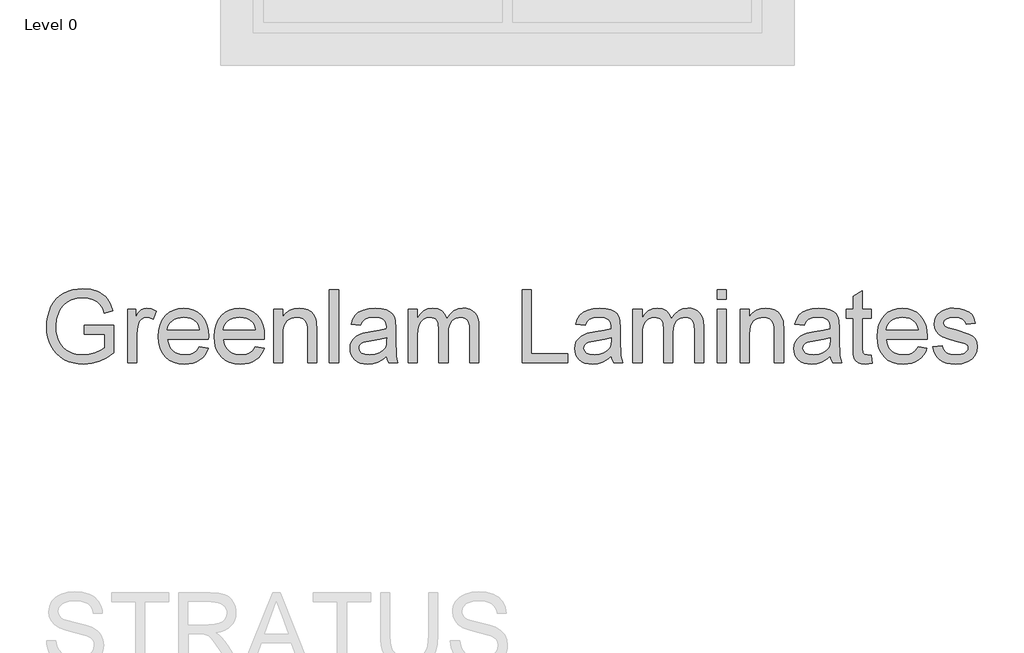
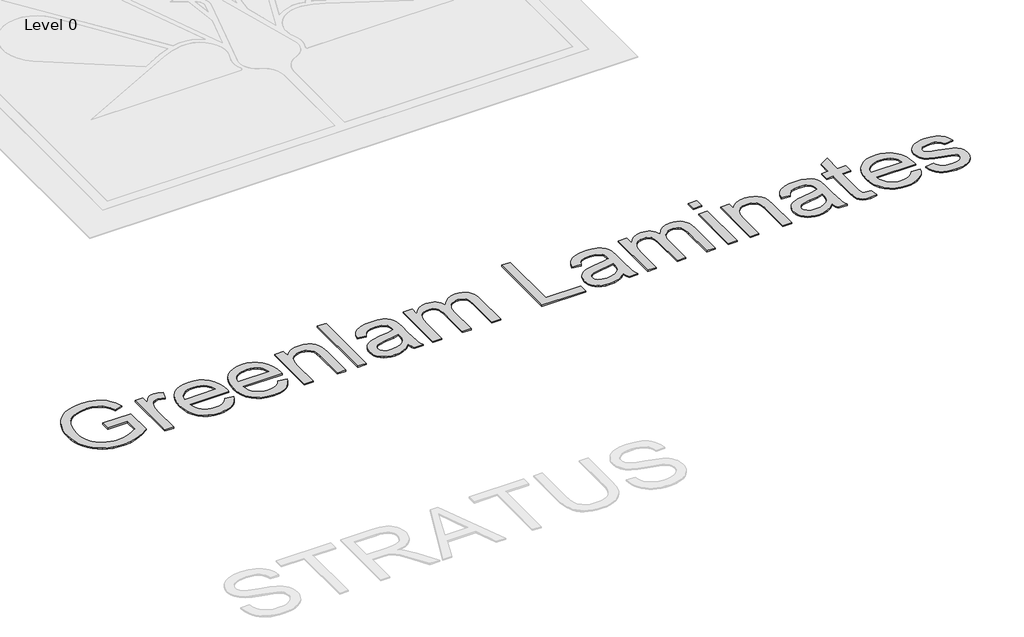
# One storey, part 12 of 12: 1 proxy.
"""IFC4 building model written with IfcOpenShell, lengths in millimetres."""

from ifc_helpers import new_model, si_unit, origin, origin_with_axes, place, context, project, spatial, polyline, outline, extrude, element, save

model = new_model("IFC4")

# Units and contexts
model_context = context("Model", 3, world=origin())
ifc_project = project(units=[si_unit("LENGTHUNIT", "METRE", prefix="MILLI")], contexts=[model_context])

# Site, building, storey
site = spatial("IfcSite", under=ifc_project)
building = spatial("IfcBuilding", under=site)
storey = spatial("IfcBuildingStorey", under=building, Name="Level 0", Elevation=0.0)

# Proxy
placement = place(None, origin())
element("IfcBuildingElementProxy", 1, Name="600mm Arial", ObjectType="600mm Arial", at=placement, inside=storey, context=model_context, shape_type="SweptSolid", body=[
    extrude(outline(polyline([(-10594.9298129, 2995.5724296), (-10594.9298129, 3070.9146622), (-10350.067557, 3070.9146622), (-10350.067557, 2845.6237284), (-10409.5724697, 2804.2370039), (-10470.9535806, 2774.5489269), (-10534.0637368, 2756.6698619), (-10598.7557857, 2750.7101736), (-10642.0325039, 2753.0784139), (-10683.2766741, 2760.183135), (-10722.4882962, 2772.0243367), (-10759.6673704, 2788.6020191), (-10793.6136815, 2809.6678618), (-10823.1270146, 2834.9735446), (-10848.2073696, 2864.5190673), (-10868.8547466, 2898.3044301), (-10884.9817735, 2935.2489794), (-10896.5010785, 2974.2720621), (-10903.4126615, 3015.373678), (-10905.7165225, 3058.5538272), (-10903.4218585, 3101.7385749), (-10896.5378667, 3143.4425975), (-10885.064547, 3183.6658952), (-10869.0018994, 3222.4084678), (-10848.6350324, 3257.9688612), (-10824.2490546, 3288.645621), (-10795.8439661, 3314.4387474), (-10763.4197667, 3335.3482403), (-10727.6800309, 3351.507457), (-10689.3283329, 3363.0497546), (-10648.3646727, 3369.9751331), (-10604.7890504, 3372.2835926), (-10542.7273578, 3366.9309096), (-10486.9196592, 3350.8728605), (-10462.0002525, 3339.1190308), (-10439.9227343, 3325.2682737), (-10420.6871045, 3309.3205892), (-10404.293363, 3291.2759773), (-10377.9346181, 3247.2588966), (-10358.749572, 3191.5799566), (-10428.2056927, 3172.0086345), (-10443.7119188, 3211.7214959), (-10462.5658711, 3241.6854844), (-10487.5082704, 3264.2734389), (-10521.2798375, 3281.8581982), (-10561.5445219, 3293.1705696), (-10605.9662728, 3296.94136), (-10657.9663928, 3292.876264), (-10702.4249319, 3280.6809758), (-10739.1763433, 3261.8822059), (-10768.0550799, 3238.0066644), (-10790.2199701, 3210.2867561), (-10806.8298422, 3179.9548856), (-10824.4881779, 3123.0803291), (-10830.3742899, 3061.6440359), (-10828.6038578, 3024.0235034), (-10823.2925615, 2989.5943472), (-10814.4404009, 2958.3565672), (-10802.0473762, 2930.3101636), (-10786.2744357, 2905.5609024), (-10767.2825277, 2884.2145496), (-10745.0716522, 2866.2711053), (-10719.6418093, 2851.7305695), (-10692.1840169, 2840.496373), (-10663.8892929, 2832.471947), (-10634.7576374, 2827.6572914), (-10604.7890504, 2826.0524062), (-10552.6049894, 2830.8900544), (-10501.7085154, 2845.4029992), (-10457.5074936, 2865.3973856), (-10425.4097896, 2886.679359), (-10425.4097896, 2995.5724296), (-10594.9298129, 2995.5724296)])), origin_with_axes(), (0.0, 0.0, 1.0), 10.0),
    extrude(outline(polyline([(-10237.054208, 2760.1279527), (-10237.054208, 3202.7635693), (-10171.1297545, 3202.7635693), (-10171.1297545, 3137.2805741), (-10146.7759664, 3175.245996), (-10124.3351647, 3197.6132213), (-10101.8207866, 3208.5393166), (-10077.2462693, 3212.1813483), (-10039.7223058, 3206.3688128), (-10001.6097311, 3188.9312062), (-10026.7728596, 3121.3880719), (-10053.2603632, 3132.9763548), (-10079.7478669, 3136.8391157), (-10102.2438509, 3133.1235076), (-10122.3486019, 3121.9766831), (-10138.590592, 3104.244771), (-10149.4982932, 3080.7738997), (-10158.6585549, 3038.6881994), (-10161.7119754, 2992.7765264), (-10161.7119754, 2760.1279527), (-10237.054208, 2760.1279527)])), origin_with_axes(), (0.0, 0.0, 1.0), 10.0),
    extrude(outline(polyline([(-9644.617043, 2891.9768597), (-9570.7463384, 2882.5590807), (-9582.0725053, 2852.9721712), (-9597.3626007, 2826.8985348), (-9616.6166246, 2804.3381714), (-9639.8345771, 2785.2910811), (-9666.7773347, 2770.1619341), (-9697.2057742, 2759.3554005), (-9731.1198956, 2752.8714803), (-9768.519699, 2750.7101736), (-9815.2683035, 2754.4395773), (-9856.9217424, 2765.6277885), (-9893.4800157, 2784.2748071), (-9924.9431233, 2810.3806332), (-9950.2442075, 2843.2186998), (-9968.3164106, 2882.06244), (-9979.1597324, 2926.9118537), (-9982.774173, 2977.766941), (-9979.1229442, 3030.3464752), (-9968.1692578, 3076.6904095), (-9949.9131138, 3116.798744), (-9924.3545121, 3150.6714788), (-9892.9741779, 3177.5820467), (-9857.2528362, 3196.8038809), (-9817.1904869, 3208.3369815), (-9772.7871301, 3212.1813483), (-9729.8139146, 3208.3461785), (-9690.9517803, 3196.8406691), (-9656.2007273, 3177.6648201), (-9625.5607557, 3150.8186315), (-9600.5493785, 3117.0194732), (-9582.6841091, 3076.9847151), (-9571.9649475, 3030.7143572), (-9568.3918936, 2978.2083994), (-9568.833352, 2957.9013133), (-9907.4319404, 2957.9013133), (-9903.0679402, 2927.8361572), (-9894.3905236, 2901.5050034), (-9881.3996907, 2878.9078519), (-9864.0954413, 2860.0447026), (-9843.4342688, 2845.1730729), (-9820.3726662, 2834.5504803), (-9794.9106336, 2828.1769247), (-9767.048171, 2826.0524062), (-9726.9490335, 2829.9887436), (-9693.1774664, 2841.7977556), (-9665.7334695, 2862.2152063), (-9644.617043, 2891.9768597)]), holes=[polyline([(-9907.4319404, 3033.2435459), (-9643.7341262, 3033.2435459), (-9653.9244575, 3073.0483778), (-9662.689246, 3088.7017567), (-9673.9004498, 3101.5224442), (-9694.4466593, 3116.973488), (-9717.82556, 3128.0099478), (-9744.0371522, 3134.6318238), (-9773.0814357, 3136.8391157), (-9799.5735379, 3135.0778807), (-9823.8675452, 3129.7941755), (-9845.9634575, 3120.9880003), (-9865.8612749, 3108.6593549), (-9882.558519, 3093.3784565), (-9895.0527112, 3075.7155222), (-9903.3438517, 3055.670552), (-9907.4319404, 3033.2435459)])]), origin_with_axes(), (0.0, 0.0, 1.0), 10.0),
    extrude(outline(polyline([(-9183.1458683, 2891.9768597), (-9109.2751636, 2882.5590807), (-9120.6013305, 2852.9721712), (-9135.891426, 2826.8985348), (-9155.1454499, 2804.3381714), (-9178.3634023, 2785.2910811), (-9205.3061599, 2770.1619341), (-9235.7345995, 2759.3554005), (-9269.6487209, 2752.8714803), (-9307.0485242, 2750.7101736), (-9353.7971288, 2754.4395773), (-9395.4505677, 2765.6277885), (-9432.0088409, 2784.2748071), (-9463.4719486, 2810.3806332), (-9488.7730328, 2843.2186998), (-9506.8452358, 2882.06244), (-9517.6885576, 2926.9118537), (-9521.3029982, 2977.766941), (-9517.6517694, 3030.3464752), (-9506.698083, 3076.6904095), (-9488.441939, 3116.798744), (-9462.8833374, 3150.6714788), (-9431.5030032, 3177.5820467), (-9395.7816615, 3196.8038809), (-9355.7193122, 3208.3369815), (-9311.3159554, 3212.1813483), (-9268.3427398, 3208.3461785), (-9229.4806055, 3196.8406691), (-9194.7295526, 3177.6648201), (-9164.0895809, 3150.8186315), (-9139.0782038, 3117.0194732), (-9121.2129344, 3076.9847151), (-9110.4937727, 3030.7143572), (-9106.9207189, 2978.2083994), (-9107.3621772, 2957.9013133), (-9445.9607656, 2957.9013133), (-9441.5967654, 2927.8361572), (-9432.9193489, 2901.5050034), (-9419.9285159, 2878.9078519), (-9402.6242666, 2860.0447026), (-9381.963094, 2845.1730729), (-9358.9014915, 2834.5504803), (-9333.4394589, 2828.1769247), (-9305.5769962, 2826.0524062), (-9265.4778588, 2829.9887436), (-9231.7062916, 2841.7977556), (-9204.2622948, 2862.2152063), (-9183.1458683, 2891.9768597)]), holes=[polyline([(-9445.9607656, 3033.2435459), (-9182.2629515, 3033.2435459), (-9192.4532827, 3073.0483778), (-9201.2180713, 3088.7017567), (-9212.4292751, 3101.5224442), (-9232.9754845, 3116.973488), (-9256.3543853, 3128.0099478), (-9282.5659775, 3134.6318238), (-9311.610261, 3136.8391157), (-9338.1023631, 3135.0778807), (-9362.3963704, 3129.7941755), (-9384.4922827, 3120.9880003), (-9404.3901002, 3108.6593549), (-9421.0873442, 3093.3784565), (-9433.5815365, 3075.7155222), (-9441.8726769, 3055.670552), (-9445.9607656, 3033.2435459)])]), origin_with_axes(), (0.0, 0.0, 1.0), 10.0),
    extrude(outline(polyline([(-9031.5784862, 2760.1279527), (-9031.5784862, 3202.7635693), (-8956.2362536, 3202.7635693), (-8956.2362536, 3140.9593941), (-8930.0614497, 3172.1189991), (-8898.6259332, 3194.3758598), (-8861.9297042, 3207.7299762), (-8819.9727626, 3212.1813483), (-8782.8350752, 3208.5944989), (-8748.8243847, 3197.8339505), (-8720.4606829, 3181.2424725), (-8700.2639614, 3160.1628342), (-8686.5603571, 3134.6502179), (-8677.6760069, 3104.7598058), (-8673.7028813, 3031.9191707), (-8673.7028813, 2760.1279527), (-8749.0451139, 2760.1279527), (-8749.0451139, 3021.7656276), (-8751.2156177, 3060.7243309), (-8757.727129, 3088.4258452), (-8769.7384762, 3108.2730788), (-8788.4084874, 3123.6689403), (-8812.3392112, 3133.5465719), (-8840.132696, 3136.8391157), (-8863.0103575, 3134.9905087), (-8884.2601413, 3129.4446876), (-8903.8820472, 3120.2016525), (-8921.8760753, 3107.2614033), (-8936.9086533, 3089.1524121), (-8947.646209, 3064.4031509), (-8954.0887425, 3033.0136196), (-8956.2362536, 2994.9838184), (-8956.2362536, 2760.1279527), (-9031.5784862, 2760.1279527)])), origin_with_axes(), (0.0, 0.0, 1.0), 10.0),
    extrude(outline(polyline([(-8570.1073115, 2760.1279527), (-8570.1073115, 3362.8658136), (-8494.7650789, 3362.8658136), (-8494.7650789, 2760.1279527), (-8570.1073115, 2760.1279527)])), origin_with_axes(), (0.0, 0.0, 1.0), 10.0),
    extrude(outline(polyline([(-8099.2183577, 2816.6346271), (-8135.2156109, 2785.7693277), (-8172.2797219, 2765.5726062), (-8211.2568193, 2754.4257817), (-8252.9930316, 2750.7101736), (-8286.5392711, 2752.9450567), (-8315.9560351, 2759.6497061), (-8341.2433238, 2770.8241217), (-8362.401137, 2786.4683035), (-8379.1075781, 2805.5889702), (-8391.0407503, 2827.1928404), (-8398.2006537, 2851.279914), (-8400.5872881, 2877.8501911), (-8396.9820446, 2909.0833725), (-8386.1663139, 2937.4470743), (-8369.4828654, 2961.727286), (-8348.2744684, 2980.709997), (-8323.3504632, 2995.0573948), (-8295.5201903, 3005.4316671), (-8230.3315007, 3016.7624325), (-8153.297011, 3028.6818092), (-8099.6598161, 3042.661325), (-8099.2183577, 3059.4367439), (-8104.4054938, 3093.0611583), (-8110.889414, 3105.5139638), (-8119.9669022, 3115.0605016), (-8135.6570693, 3124.5886453), (-8154.7685389, 3131.3944622), (-8203.2553859, 3136.8391157), (-8248.1369893, 3133.2154781), (-8279.4805353, 3122.3445651), (-8300.8544792, 3102.2398141), (-8315.8272764, 3070.9146622), (-8391.169509, 3080.3324413), (-8378.0913041, 3121.5352247), (-8358.5751643, 3153.9088403), (-8330.8000736, 3178.6672986), (-8292.9450163, 3197.0246101), (-8246.6470672, 3208.3921638), (-8193.5433012, 3212.1813483), (-8142.610039, 3208.8336222), (-8102.23499, 3198.7904437), (-8071.7927549, 3183.6888878), (-8050.6579343, 3165.1660294), (-8036.6416303, 3142.2653752), (-8027.554945, 3114.030432), (-8023.8761251, 3048.1059785), (-8023.8761251, 2954.3696461), (-8020.0501523, 2823.4772322), (-8014.3847696, 2791.1220108), (-8005.0405669, 2760.1279527), (-8080.3827995, 2760.1279527), (-8092.449329, 2786.3211507), (-8099.2183577, 2816.6346271)]), holes=[polyline([(-8099.2183577, 2967.3190924), (-8149.8389202, 2954.7743163), (-8220.7665689, 2944.2161031), (-8285.5873764, 2932.0024208), (-8302.4547659, 2923.6514995), (-8314.9443596, 2912.1367931), (-8322.6698815, 2898.3412183), (-8325.2450555, 2883.1476919), (-8319.6348551, 2860.7436784), (-8302.8042538, 2842.3863668), (-8275.1211337, 2830.1358964), (-8236.9533767, 2826.0524062), (-8196.4863572, 2830.5589606), (-8160.7282273, 2844.078624), (-8131.739126, 2863.999434), (-8111.5791927, 2887.7094286), (-8102.6396602, 2912.1367931), (-8099.6598161, 2945.9819366), (-8099.2183577, 2967.3190924)])]), origin_with_axes(), (0.0, 0.0, 1.0), 10.0),
    extrude(outline(polyline([(-7920.2805552, 2760.1279527), (-7920.2805552, 3202.7635693), (-7844.9383226, 3202.7635693), (-7844.9383226, 3129.9229342), (-7822.2767917, 3163.3818017), (-7793.1405377, 3189.5933938), (-7758.5228419, 3206.5343597), (-7719.4169858, 3212.1813483), (-7677.5152266, 3206.4239951), (-7659.6821469, 3199.2273036), (-7643.9276004, 3189.1519354), (-7618.8380484, 3161.5056035), (-7602.4305114, 3124.6254335), (-7574.9681204, 3162.9311462), (-7543.6429685, 3190.2923696), (-7508.4550557, 3206.7091037), (-7469.4043819, 3212.1813483), (-7439.2426568, 3209.9050785), (-7412.7689488, 3203.076269), (-7389.9832577, 3191.6949197), (-7370.8855836, 3175.7610308), (-7355.7886262, 3155.0906612), (-7345.0050853, 3129.4998699), (-7338.5349607, 3098.988657), (-7336.3782525, 3063.5570223), (-7336.3782525, 2760.1279527), (-7411.7204851, 2760.1279527), (-7411.7204851, 3031.1834067), (-7413.4679246, 3068.7625525), (-7418.710243, 3094.0912279), (-7428.5326923, 3111.436864), (-7444.0205243, 3125.0668919), (-7463.9413343, 3133.8960598), (-7487.0627177, 3136.8391157), (-7508.413669, 3134.9537205), (-7527.8792251, 3129.2975348), (-7545.4593859, 3119.8705587), (-7561.1541515, 3106.6727921), (-7574.062211, 3089.317959), (-7583.2822535, 3067.4197832), (-7588.814279, 3040.9782648), (-7590.6582875, 3009.9934038), (-7590.6582875, 2760.1279527), (-7666.0005201, 2760.1279527), (-7666.0005201, 3039.5711162), (-7670.3599218, 3082.1718512), (-7675.8091738, 3098.8920879), (-7683.4381267, 3112.5589041), (-7693.5502831, 3123.1814967), (-7706.4491455, 3130.7690628), (-7722.1347141, 3135.3216025), (-7740.6069888, 3136.8391157), (-7769.6328782, 3132.7924138), (-7796.3778992, 3120.6523079), (-7818.4508189, 3100.7131038), (-7833.4604044, 3073.269107), (-7842.068843, 3035.1933205), (-7844.9383226, 2983.3587473), (-7844.9383226, 2760.1279527), (-7920.2805552, 2760.1279527)])), origin_with_axes(), (0.0, 0.0, 1.0), 10.0),
    extrude(outline(polyline([(-6978.5026476, 2760.1279527), (-6978.5026476, 3362.8658136), (-6903.1604149, 3362.8658136), (-6903.1604149, 2835.4701853), (-6601.7914845, 2835.4701853), (-6601.7914845, 2760.1279527), (-6978.5026476, 2760.1279527)])), origin_with_axes(), (0.0, 0.0, 1.0), 10.0),
    extrude(outline(polyline([(-6243.9158796, 2816.6346271), (-6279.9131328, 2785.7693277), (-6316.9772438, 2765.5726062), (-6355.9543412, 2754.4257817), (-6397.6905536, 2750.7101736), (-6431.236793, 2752.9450567), (-6460.653557, 2759.6497061), (-6485.9408457, 2770.8241217), (-6507.0986589, 2786.4683035), (-6523.8051, 2805.5889702), (-6535.7382723, 2827.1928404), (-6542.8981756, 2851.279914), (-6545.28481, 2877.8501911), (-6541.6795665, 2909.0833725), (-6530.8638358, 2937.4470743), (-6514.1803873, 2961.727286), (-6492.9719903, 2980.709997), (-6468.0479852, 2995.0573948), (-6440.2177122, 3005.4316671), (-6375.0290227, 3016.7624325), (-6297.9945329, 3028.6818092), (-6244.357338, 3042.661325), (-6243.9158796, 3059.4367439), (-6249.1030157, 3093.0611583), (-6255.5869359, 3105.5139638), (-6264.6644241, 3115.0605016), (-6280.3545912, 3124.5886453), (-6299.4660609, 3131.3944622), (-6347.9529078, 3136.8391157), (-6392.8345112, 3133.2154781), (-6424.1780572, 3122.3445651), (-6445.5520011, 3102.2398141), (-6460.5247984, 3070.9146622), (-6535.867031, 3080.3324413), (-6522.788826, 3121.5352247), (-6503.2726862, 3153.9088403), (-6475.4975956, 3178.6672986), (-6437.6425383, 3197.0246101), (-6391.3445892, 3208.3921638), (-6338.2408232, 3212.1813483), (-6287.3075609, 3208.8336222), (-6246.932512, 3198.7904437), (-6216.4902768, 3183.6888878), (-6195.3554562, 3165.1660294), (-6181.3391522, 3142.2653752), (-6172.2524669, 3114.030432), (-6168.573647, 3048.1059785), (-6168.573647, 2954.3696461), (-6164.7476742, 2823.4772322), (-6159.0822915, 2791.1220108), (-6149.7380888, 2760.1279527), (-6225.0803214, 2760.1279527), (-6237.1468509, 2786.3211507), (-6243.9158796, 2816.6346271)]), holes=[polyline([(-6243.9158796, 2967.3190924), (-6294.5364421, 2954.7743163), (-6365.4640908, 2944.2161031), (-6430.2848983, 2932.0024208), (-6447.1522878, 2923.6514995), (-6459.6418816, 2912.1367931), (-6467.3674035, 2898.3412183), (-6469.9425774, 2883.1476919), (-6464.332377, 2860.7436784), (-6447.5017757, 2842.3863668), (-6419.8186556, 2830.1358964), (-6381.6508986, 2826.0524062), (-6341.1838791, 2830.5589606), (-6305.4257492, 2844.078624), (-6276.436648, 2863.999434), (-6256.2767146, 2887.7094286), (-6247.3371821, 2912.1367931), (-6244.357338, 2945.9819366), (-6243.9158796, 2967.3190924)])]), origin_with_axes(), (0.0, 0.0, 1.0), 10.0),
    extrude(outline(polyline([(-6064.9780771, 2760.1279527), (-6064.9780771, 3202.7635693), (-5989.6358445, 3202.7635693), (-5989.6358445, 3129.9229342), (-5966.9743136, 3163.3818017), (-5937.8380596, 3189.5933938), (-5903.2203639, 3206.5343597), (-5864.1145078, 3212.1813483), (-5822.2127485, 3206.4239951), (-5804.3796688, 3199.2273036), (-5788.6251224, 3189.1519354), (-5763.5355703, 3161.5056035), (-5747.1280333, 3124.6254335), (-5719.6656424, 3162.9311462), (-5688.3404905, 3190.2923696), (-5653.1525776, 3206.7091037), (-5614.1019038, 3212.1813483), (-5583.9401788, 3209.9050785), (-5557.4664707, 3203.076269), (-5534.6807796, 3191.6949197), (-5515.5831055, 3175.7610308), (-5500.4861482, 3155.0906612), (-5489.7026072, 3129.4998699), (-5483.2324826, 3098.988657), (-5481.0757744, 3063.5570223), (-5481.0757744, 2760.1279527), (-5556.418007, 2760.1279527), (-5556.418007, 3031.1834067), (-5558.1654465, 3068.7625525), (-5563.4077649, 3094.0912279), (-5573.2302142, 3111.436864), (-5588.7180462, 3125.0668919), (-5608.6388562, 3133.8960598), (-5631.7602396, 3136.8391157), (-5653.1111909, 3134.9537205), (-5672.576747, 3129.2975348), (-5690.1569078, 3119.8705587), (-5705.8516734, 3106.6727921), (-5718.759733, 3089.317959), (-5727.9797755, 3067.4197832), (-5733.511801, 3040.9782648), (-5735.3558095, 3009.9934038), (-5735.3558095, 2760.1279527), (-5810.6980421, 2760.1279527), (-5810.6980421, 3039.5711162), (-5815.0574437, 3082.1718512), (-5820.5066958, 3098.8920879), (-5828.1356486, 3112.5589041), (-5838.247805, 3123.1814967), (-5851.1466674, 3130.7690628), (-5866.832236, 3135.3216025), (-5885.3045107, 3136.8391157), (-5914.3304001, 3132.7924138), (-5941.0754212, 3120.6523079), (-5963.1483409, 3100.7131038), (-5978.1579263, 3073.269107), (-5986.766365, 3035.1933205), (-5989.6358445, 2983.3587473), (-5989.6358445, 2760.1279527), (-6064.9780771, 2760.1279527)])), origin_with_axes(), (0.0, 0.0, 1.0), 10.0),
    extrude(outline(polyline([(-5368.0624255, 3287.523581), (-5368.0624255, 3362.8658136), (-5292.7201929, 3362.8658136), (-5292.7201929, 3287.523581), (-5368.0624255, 3287.523581)])), origin_with_axes(), (0.0, 0.0, 1.0), 10.0),
    extrude(outline(polyline([(-5368.0624255, 2760.1279527), (-5368.0624255, 3202.7635693), (-5292.7201929, 3202.7635693), (-5292.7201929, 2760.1279527), (-5368.0624255, 2760.1279527)])), origin_with_axes(), (0.0, 0.0, 1.0), 10.0),
    extrude(outline(polyline([(-5179.7068439, 2760.1279527), (-5179.7068439, 3202.7635693), (-5104.3646113, 3202.7635693), (-5104.3646113, 3140.9593941), (-5078.1898074, 3172.1189991), (-5046.7542909, 3194.3758598), (-5010.0580619, 3207.7299762), (-4968.1011203, 3212.1813483), (-4930.9634329, 3208.5944989), (-4896.9527424, 3197.8339505), (-4868.5890406, 3181.2424725), (-4848.3923191, 3160.1628342), (-4834.6887148, 3134.6502179), (-4825.8043646, 3104.7598058), (-4821.831239, 3031.9191707), (-4821.831239, 2760.1279527), (-4897.1734716, 2760.1279527), (-4897.1734716, 3021.7656276), (-4899.3439754, 3060.7243309), (-4905.8554867, 3088.4258452), (-4917.8668339, 3108.2730788), (-4936.5368451, 3123.6689403), (-4960.4675689, 3133.5465719), (-4988.2610537, 3136.8391157), (-5011.1387152, 3134.9905087), (-5032.388499, 3129.4446876), (-5052.0104049, 3120.2016525), (-5070.004433, 3107.2614033), (-5085.037011, 3089.1524121), (-5095.7745667, 3064.4031509), (-5102.2171002, 3033.0136196), (-5104.3646113, 2994.9838184), (-5104.3646113, 2760.1279527), (-5179.7068439, 2760.1279527)])), origin_with_axes(), (0.0, 0.0, 1.0), 10.0),
    extrude(outline(polyline([(-4435.7022969, 2816.6346271), (-4471.6995501, 2785.7693277), (-4508.7636611, 2765.5726062), (-4547.7407585, 2754.4257817), (-4589.4769709, 2750.7101736), (-4623.0232103, 2752.9450567), (-4652.4399744, 2759.6497061), (-4677.727263, 2770.8241217), (-4698.8850762, 2786.4683035), (-4715.5915174, 2805.5889702), (-4727.5246896, 2827.1928404), (-4734.6845929, 2851.279914), (-4737.0712273, 2877.8501911), (-4733.4659838, 2909.0833725), (-4722.6502531, 2937.4470743), (-4705.9668047, 2961.727286), (-4684.7584076, 2980.709997), (-4659.8344025, 2995.0573948), (-4632.0041295, 3005.4316671), (-4566.81544, 3016.7624325), (-4489.7809502, 3028.6818092), (-4436.1437553, 3042.661325), (-4435.7022969, 3059.4367439), (-4440.889433, 3093.0611583), (-4447.3733532, 3105.5139638), (-4456.4508414, 3115.0605016), (-4472.1410085, 3124.5886453), (-4491.2524782, 3131.3944622), (-4539.7393251, 3136.8391157), (-4584.6209285, 3133.2154781), (-4615.9644745, 3122.3445651), (-4637.3384185, 3102.2398141), (-4652.3112157, 3070.9146622), (-4727.6534483, 3080.3324413), (-4714.5752433, 3121.5352247), (-4695.0591035, 3153.9088403), (-4667.2840129, 3178.6672986), (-4629.4289556, 3197.0246101), (-4583.1310065, 3208.3921638), (-4530.0272405, 3212.1813483), (-4479.0939782, 3208.8336222), (-4438.7189293, 3198.7904437), (-4408.2766942, 3183.6888878), (-4387.1418735, 3165.1660294), (-4373.1255695, 3142.2653752), (-4364.0388842, 3114.030432), (-4360.3600643, 3048.1059785), (-4360.3600643, 2954.3696461), (-4356.5340915, 2823.4772322), (-4350.8687088, 2791.1220108), (-4341.5245061, 2760.1279527), (-4416.8667387, 2760.1279527), (-4428.9332682, 2786.3211507), (-4435.7022969, 2816.6346271)]), holes=[polyline([(-4435.7022969, 2967.3190924), (-4486.3228594, 2954.7743163), (-4557.2505081, 2944.2161031), (-4622.0713157, 2932.0024208), (-4638.9387051, 2923.6514995), (-4651.4282989, 2912.1367931), (-4659.1538208, 2898.3412183), (-4661.7289947, 2883.1476919), (-4656.1187943, 2860.7436784), (-4639.288193, 2842.3863668), (-4611.6050729, 2830.1358964), (-4573.4373159, 2826.0524062), (-4532.9702964, 2830.5589606), (-4497.2121665, 2844.078624), (-4468.2230653, 2863.999434), (-4448.0631319, 2887.7094286), (-4439.1235995, 2912.1367931), (-4436.1437553, 2945.9819366), (-4435.7022969, 2967.3190924)])]), origin_with_axes(), (0.0, 0.0, 1.0), 10.0),
    extrude(outline(polyline([(-4096.6622501, 2822.9621974), (-4087.2444711, 2757.9206607), (-4143.6039927, 2750.7101736), (-4179.7667929, 2753.8371706), (-4206.7325431, 2763.2181614), (-4225.7888304, 2777.6759238), (-4238.2232419, 2796.0332354), (-4245.065847, 2827.5607224), (-4247.3467154, 2881.5290111), (-4247.3467154, 3127.4213367), (-4303.8533898, 3127.4213367), (-4303.8533898, 3202.7635693), (-4247.3467154, 3202.7635693), (-4247.3467154, 3310.3322647), (-4172.0044828, 3354.6252569), (-4172.0044828, 3202.7635693), (-4096.6622501, 3202.7635693), (-4096.6622501, 3127.4213367), (-4172.0044828, 3127.4213367), (-4172.0044828, 2883.7363031), (-4168.0313572, 2844.8879644), (-4155.1554874, 2831.1291777), (-4144.2845744, 2827.3215991), (-4129.4773241, 2826.0524062), (-4096.6622501, 2822.9621974)])), origin_with_axes(), (0.0, 0.0, 1.0), 10.0),
    extrude(outline(polyline([(-3711.4162248, 2891.9768597), (-3637.5455202, 2882.5590807), (-3648.8716871, 2852.9721712), (-3664.1617825, 2826.8985348), (-3683.4158064, 2804.3381714), (-3706.6337589, 2785.2910811), (-3733.5765165, 2770.1619341), (-3764.004956, 2759.3554005), (-3797.9190774, 2752.8714803), (-3835.3188808, 2750.7101736), (-3882.0674853, 2754.4395773), (-3923.7209242, 2765.6277885), (-3960.2791975, 2784.2748071), (-3991.7423051, 2810.3806332), (-4017.0433893, 2843.2186998), (-4035.1155923, 2882.06244), (-4045.9589142, 2926.9118537), (-4049.5733548, 2977.766941), (-4045.922126, 3030.3464752), (-4034.9684396, 3076.6904095), (-4016.7122955, 3116.798744), (-3991.1536939, 3150.6714788), (-3959.7733597, 3177.5820467), (-3924.052018, 3196.8038809), (-3883.9896687, 3208.3369815), (-3839.5863119, 3212.1813483), (-3796.6130964, 3208.3461785), (-3757.7509621, 3196.8406691), (-3722.9999091, 3177.6648201), (-3692.3599374, 3150.8186315), (-3667.3485603, 3117.0194732), (-3649.4832909, 3076.9847151), (-3638.7641293, 3030.7143572), (-3635.1910754, 2978.2083994), (-3635.6325338, 2957.9013133), (-3974.2311221, 2957.9013133), (-3969.867122, 2927.8361572), (-3961.1897054, 2901.5050034), (-3948.1988725, 2878.9078519), (-3930.8946231, 2860.0447026), (-3910.2334506, 2845.1730729), (-3887.171848, 2834.5504803), (-3861.7098154, 2828.1769247), (-3833.8473528, 2826.0524062), (-3793.7482153, 2829.9887436), (-3759.9766482, 2841.7977556), (-3732.5326513, 2862.2152063), (-3711.4162248, 2891.9768597)]), holes=[polyline([(-3974.2311221, 3033.2435459), (-3710.533308, 3033.2435459), (-3720.7236393, 3073.0483778), (-3729.4884278, 3088.7017567), (-3740.6996316, 3101.5224442), (-3761.245841, 3116.973488), (-3784.6247418, 3128.0099478), (-3810.836334, 3134.6318238), (-3839.8806175, 3136.8391157), (-3866.3727197, 3135.0778807), (-3890.6667269, 3129.7941755), (-3912.7626393, 3120.9880003), (-3932.6604567, 3108.6593549), (-3949.3577007, 3093.3784565), (-3961.851893, 3075.7155222), (-3970.1430335, 3055.670552), (-3974.2311221, 3033.2435459)])]), origin_with_axes(), (0.0, 0.0, 1.0), 10.0),
    extrude(outline(polyline([(-3588.10218, 2891.9768597), (-3512.7599474, 2901.3946388), (-3508.2074077, 2884.2145496), (-3500.877359, 2869.168176), (-3490.7698011, 2856.255518), (-3477.8847343, 2845.4765756), (-3462.1853701, 2836.9785015), (-3443.6349205, 2830.9084485), (-3397.9807649, 2826.0524062), (-3352.8784323, 2830.5037783), (-3335.3488552, 2836.0679935), (-3321.1670043, 2843.8578948), (-3302.4050226, 2863.2084877), (-3297.7145271, 2874.0426125), (-3296.1510286, 2885.6492894), (-3297.7237242, 2895.8212266), (-3302.4418108, 2904.8527296), (-3321.3141571, 2919.494433), (-3349.5307061, 2929.0593649), (-3398.8636817, 2940.9787415), (-3467.6208266, 2960.8627633), (-3512.318489, 2977.8405174), (-3541.0316787, 2996.3633759), (-3561.8354056, 3020.8827109), (-3574.4721521, 3049.8350239), (-3578.6844009, 3081.6568165), (-3575.2998866, 3110.8482528), (-3565.1463435, 3137.7956089), (-3549.1434767, 3161.4320271), (-3528.2109912, 3180.6906496), (-3507.4072644, 3192.8123613), (-3480.3127554, 3202.9842985), (-3448.9876035, 3209.8820859), (-3415.4919479, 3212.1813483), (-3366.4532779, 3208.4841343), (-3323.8157547, 3197.3924921), (-3289.5291527, 3179.9916738), (-3265.5432466, 3157.3669311), (-3249.6507444, 3127.844401), (-3239.6443542, 3089.7502203), (-3314.9865868, 3080.3324413), (-3324.4963364, 3104.0424359), (-3343.3135004, 3121.9031067), (-3371.6220199, 3133.1051135), (-3409.605836, 3136.8391157), (-3452.8687586, 3133.2706604), (-3481.710707, 3122.5652943), (-3497.934303, 3107.1142505), (-3503.3421683, 3089.308762), (-3501.0980882, 3077.7204791), (-3494.3658476, 3067.382995), (-3482.8511412, 3058.149157), (-3466.2596632, 3050.7547289), (-3401.3652793, 3034.7150739), (-3290.7799515, 2999.2512495), (-3261.5701211, 2982.2918896), (-3239.423625, 2959.0785357), (-3225.4625033, 2929.5376115), (-3220.808796, 2893.5955405), (-3226.2718437, 2856.439459), (-3242.6609865, 2821.4906695), (-3269.3508253, 2791.4898928), (-3305.7159605, 2769.1778498), (-3349.6410707, 2755.3270926), (-3399.0108345, 2750.7101736), (-3439.5606274, 2752.9358597), (-3474.9784665, 2759.6129179), (-3505.2643517, 2770.7413482), (-3530.4182832, 2786.3211507), (-3550.9644926, 2806.278749), (-3567.4272119, 2830.5405665), (-3579.806441, 2859.1066035), (-3588.10218, 2891.9768597)])), origin_with_axes(), (0.0, 0.0, 1.0), 10.0),
])

save(model, "model.ifc")
